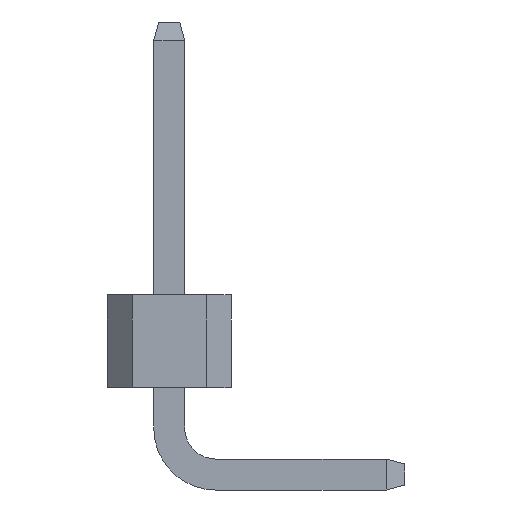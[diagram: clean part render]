
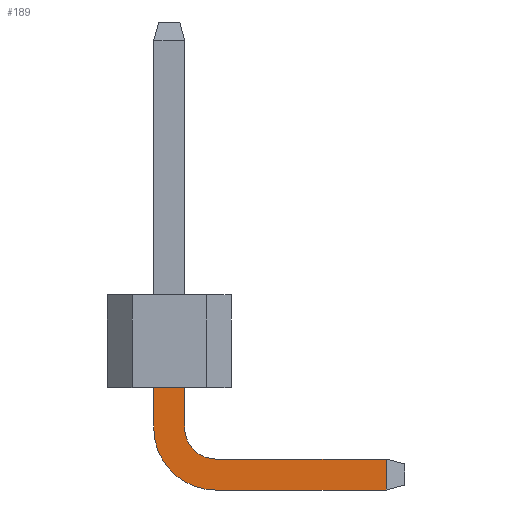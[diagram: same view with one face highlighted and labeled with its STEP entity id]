
A CAD part, left-side view. The second image highlights one B-rep face of the part: STEP entity #189.
In plain terms, the highlighted planar face has unit normal (-1, 0, 0).
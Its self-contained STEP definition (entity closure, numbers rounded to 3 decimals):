
#189 = ADVANCED_FACE ( 'NONE', ( #3879 ), #8148, .F. ) ;
#305 = EDGE_LOOP ( 'NONE', ( #7864, #7863, #7862, #7871, #7870, #7869, #7868, #7867 ) ) ;
#535 = VERTEX_POINT ( 'NONE', #8537 ) ;
#536 = VERTEX_POINT ( 'NONE', #8536 ) ;
#838 = VERTEX_POINT ( 'NONE', #5158 ) ;
#839 = VERTEX_POINT ( 'NONE', #5159 ) ;
#840 = VERTEX_POINT ( 'NONE', #5160 ) ;
#841 = VERTEX_POINT ( 'NONE', #5161 ) ;
#843 = VERTEX_POINT ( 'NONE', #5163 ) ;
#845 = VERTEX_POINT ( 'NONE', #5165 ) ;
#1936 = EDGE_CURVE ( 'NONE', #535, #536, #4331, .T. ) ;
#3004 = AXIS2_PLACEMENT_3D ( 'NONE', #9105, #9104, #9103 ) ;
#3182 = AXIS2_PLACEMENT_3D ( 'NONE', #6096, #6097, #6098 ) ;
#3183 = AXIS2_PLACEMENT_3D ( 'NONE', #6101, #6102, #6103 ) ;
#3212 = EDGE_CURVE ( 'NONE', #839, #843, #4889, .T. ) ;
#3213 = EDGE_CURVE ( 'NONE', #841, #838, #4895, .T. ) ;
#3879 = FACE_OUTER_BOUND ( 'NONE', #305, .T. ) ;
#4331 = LINE ( 'NONE', #5475, #4336 ) ;
#4336 = VECTOR ( 'NONE', #5484, 1000. ) ;
#4889 = CIRCLE ( 'NONE', #3182, 0.5 ) ;
#4895 = CIRCLE ( 'NONE', #3183, 1. ) ;
#4940 = LINE ( 'NONE', #6150, #4945 ) ;
#4942 = LINE ( 'NONE', #6152, #4947 ) ;
#4945 = VECTOR ( 'NONE', #6155, 1000. ) ;
#4947 = VECTOR ( 'NONE', #6157, 1000. ) ;
#5047 = LINE ( 'NONE', #6265, #5050 ) ;
#5050 = VECTOR ( 'NONE', #6266, 1000. ) ;
#5063 = LINE ( 'NONE', #6281, #5066 ) ;
#5066 = VECTOR ( 'NONE', #6282, 1000. ) ;
#5110 = LINE ( 'NONE', #6330, #5113 ) ;
#5113 = VECTOR ( 'NONE', #6332, 1000. ) ;
#5158 = CARTESIAN_POINT ( 'NONE',  ( -14.25, 1.25, 0.75 ) ) ;
#5159 = CARTESIAN_POINT ( 'NONE',  ( -14.25, 0.75, 0.75 ) ) ;
#5160 = CARTESIAN_POINT ( 'NONE',  ( -14.25, -2.5, -0.25 ) ) ;
#5161 = CARTESIAN_POINT ( 'NONE',  ( -14.25, 0.25, -0.25 ) ) ;
#5163 = CARTESIAN_POINT ( 'NONE',  ( -14.25, 0.25, 0.25 ) ) ;
#5165 = CARTESIAN_POINT ( 'NONE',  ( -14.25, -2.5, 0.25 ) ) ;
#5475 = CARTESIAN_POINT ( 'NONE',  ( -14.25, 2.6, 1.4 ) ) ;
#5484 = DIRECTION ( 'NONE',  ( 0., -1., 0. ) ) ;
#6096 = CARTESIAN_POINT ( 'NONE',  ( -14.25, 0.25, 0.75 ) ) ;
#6097 = DIRECTION ( 'NONE',  ( -1., 0., 0. ) ) ;
#6098 = DIRECTION ( 'NONE',  ( 0., 0., -1. ) ) ;
#6101 = CARTESIAN_POINT ( 'NONE',  ( -14.25, 0.25, 0.75 ) ) ;
#6102 = DIRECTION ( 'NONE',  ( 1., 0., 0. ) ) ;
#6103 = DIRECTION ( 'NONE',  ( 0., 0., -1. ) ) ;
#6150 = CARTESIAN_POINT ( 'NONE',  ( -14.25, 0.75, 0.75 ) ) ;
#6152 = CARTESIAN_POINT ( 'NONE',  ( -14.25, -2.8, -0.25 ) ) ;
#6155 = DIRECTION ( 'NONE',  ( 0., 0., -1. ) ) ;
#6157 = DIRECTION ( 'NONE',  ( 0., 1., 0. ) ) ;
#6265 = CARTESIAN_POINT ( 'NONE',  ( -14.25, 1.25, 0.75 ) ) ;
#6266 = DIRECTION ( 'NONE',  ( 0., 0., 1. ) ) ;
#6281 = CARTESIAN_POINT ( 'NONE',  ( -14.25, -2.8, 0.25 ) ) ;
#6282 = DIRECTION ( 'NONE',  ( 0., -1., 0. ) ) ;
#6330 = CARTESIAN_POINT ( 'NONE',  ( -14.25, -2.5, 0.75 ) ) ;
#6332 = DIRECTION ( 'NONE',  ( 0., 0., 1. ) ) ;
#7862 = ORIENTED_EDGE ( 'NONE', *, *, #9227, .F. ) ;
#7863 = ORIENTED_EDGE ( 'NONE', *, *, #9251, .T. ) ;
#7864 = ORIENTED_EDGE ( 'NONE', *, *, #9165, .F. ) ;
#7867 = ORIENTED_EDGE ( 'NONE', *, *, #3213, .F. ) ;
#7868 = ORIENTED_EDGE ( 'NONE', *, *, #9219, .F. ) ;
#7869 = ORIENTED_EDGE ( 'NONE', *, *, #1936, .F. ) ;
#7870 = ORIENTED_EDGE ( 'NONE', *, *, #9164, .F. ) ;
#7871 = ORIENTED_EDGE ( 'NONE', *, *, #3212, .F. ) ;
#8148 = PLANE ( 'NONE',  #3004 ) ;
#8536 = CARTESIAN_POINT ( 'NONE',  ( -14.25, 0.75, 1.4 ) ) ;
#8537 = CARTESIAN_POINT ( 'NONE',  ( -14.25, 1.25, 1.4 ) ) ;
#9103 = DIRECTION ( 'NONE',  ( 0., 0., -1. ) ) ;
#9104 = DIRECTION ( 'NONE',  ( 1., 0., 0. ) ) ;
#9105 = CARTESIAN_POINT ( 'NONE',  ( -14.25, 0.25, 0.75 ) ) ;
#9164 = EDGE_CURVE ( 'NONE', #536, #839, #4940, .T. ) ;
#9165 = EDGE_CURVE ( 'NONE', #840, #841, #4942, .T. ) ;
#9219 = EDGE_CURVE ( 'NONE', #838, #535, #5047, .T. ) ;
#9227 = EDGE_CURVE ( 'NONE', #843, #845, #5063, .T. ) ;
#9251 = EDGE_CURVE ( 'NONE', #840, #845, #5110, .T. ) ;
